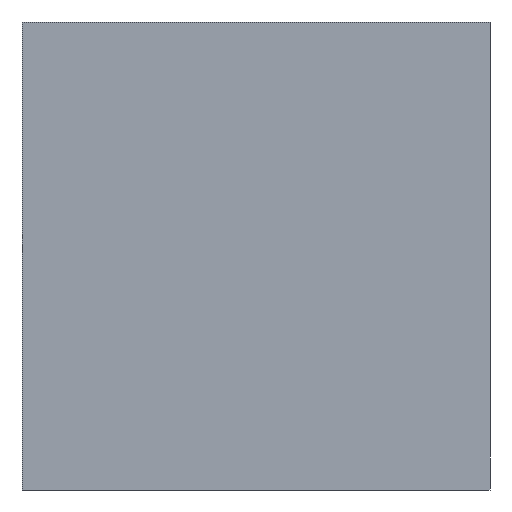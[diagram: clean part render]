
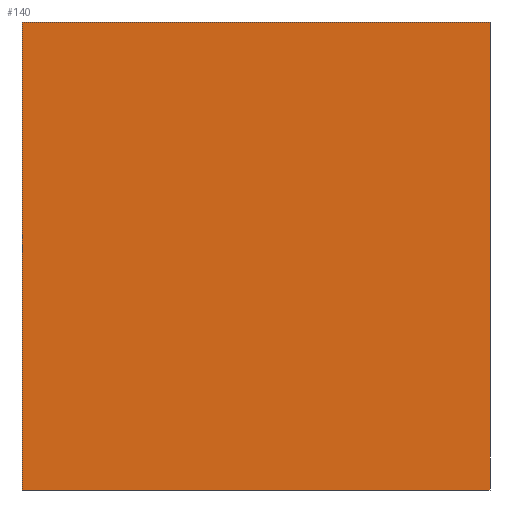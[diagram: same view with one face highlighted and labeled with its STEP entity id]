
A CAD part, left-side view. The second image highlights one B-rep face of the part: STEP entity #140.
In plain terms, the highlighted planar face has unit normal (-1, 0, 0).
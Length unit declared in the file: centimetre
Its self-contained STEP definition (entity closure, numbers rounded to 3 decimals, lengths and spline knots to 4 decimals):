
#19 = VERTEX_POINT ( 'NONE', #197 ) ;
#25 = LINE ( 'NONE', #58, #200 ) ;
#28 = DIRECTION ( 'NONE',  ( 0., -1., 0. ) ) ;
#38 = CARTESIAN_POINT ( 'NONE',  ( 0., 1000., 0. ) ) ;
#40 = LINE ( 'NONE', #218, #322 ) ;
#49 = EDGE_CURVE ( 'NONE', #134, #251, #161, .T. ) ;
#52 = ORIENTED_EDGE ( 'NONE', *, *, #319, .F. ) ;
#57 = VECTOR ( 'NONE', #172, 100. ) ;
#58 = CARTESIAN_POINT ( 'NONE',  ( 0., 1000., 0. ) ) ;
#71 = VERTEX_POINT ( 'NONE', #181 ) ;
#77 = EDGE_LOOP ( 'NONE', ( #231, #52, #252, #352 ) ) ;
#87 = FACE_OUTER_BOUND ( 'NONE', #77, .T. ) ;
#88 = EDGE_CURVE ( 'NONE', #134, #71, #204, .T. ) ;
#115 = CARTESIAN_POINT ( 'NONE',  ( 0., 1000., 1000. ) ) ;
#134 = VERTEX_POINT ( 'NONE', #176 ) ;
#140 = ADVANCED_FACE ( 'NONE', ( #87 ), #311, .F. ) ;
#141 = DIRECTION ( 'NONE',  ( 0., 0., -1. ) ) ;
#154 = VECTOR ( 'NONE', #141, 100. ) ;
#161 = LINE ( 'NONE', #233, #154 ) ;
#172 = DIRECTION ( 'NONE',  ( 0., -1., 0. ) ) ;
#176 = CARTESIAN_POINT ( 'NONE',  ( 0., 1000., 1000. ) ) ;
#181 = CARTESIAN_POINT ( 'NONE',  ( 0., 0., 1000. ) ) ;
#197 = CARTESIAN_POINT ( 'NONE',  ( 0., 0., 0. ) ) ;
#200 = VECTOR ( 'NONE', #28, 100. ) ;
#201 = EDGE_CURVE ( 'NONE', #251, #19, #25, .T. ) ;
#204 = LINE ( 'NONE', #366, #57 ) ;
#205 = DIRECTION ( 'NONE',  ( 0., 0., -1. ) ) ;
#218 = CARTESIAN_POINT ( 'NONE',  ( 0., 0., 1000. ) ) ;
#231 = ORIENTED_EDGE ( 'NONE', *, *, #201, .T. ) ;
#233 = CARTESIAN_POINT ( 'NONE',  ( 0., 1000., 1000. ) ) ;
#251 = VERTEX_POINT ( 'NONE', #38 ) ;
#252 = ORIENTED_EDGE ( 'NONE', *, *, #88, .F. ) ;
#296 = DIRECTION ( 'NONE',  ( 0., 0., -1. ) ) ;
#311 = PLANE ( 'NONE',  #369 ) ;
#313 = DIRECTION ( 'NONE',  ( 1., 0., 0. ) ) ;
#319 = EDGE_CURVE ( 'NONE', #71, #19, #40, .T. ) ;
#322 = VECTOR ( 'NONE', #296, 100. ) ;
#352 = ORIENTED_EDGE ( 'NONE', *, *, #49, .T. ) ;
#366 = CARTESIAN_POINT ( 'NONE',  ( 0., 1000., 1000. ) ) ;
#369 = AXIS2_PLACEMENT_3D ( 'NONE', #115, #313, #205 ) ;
